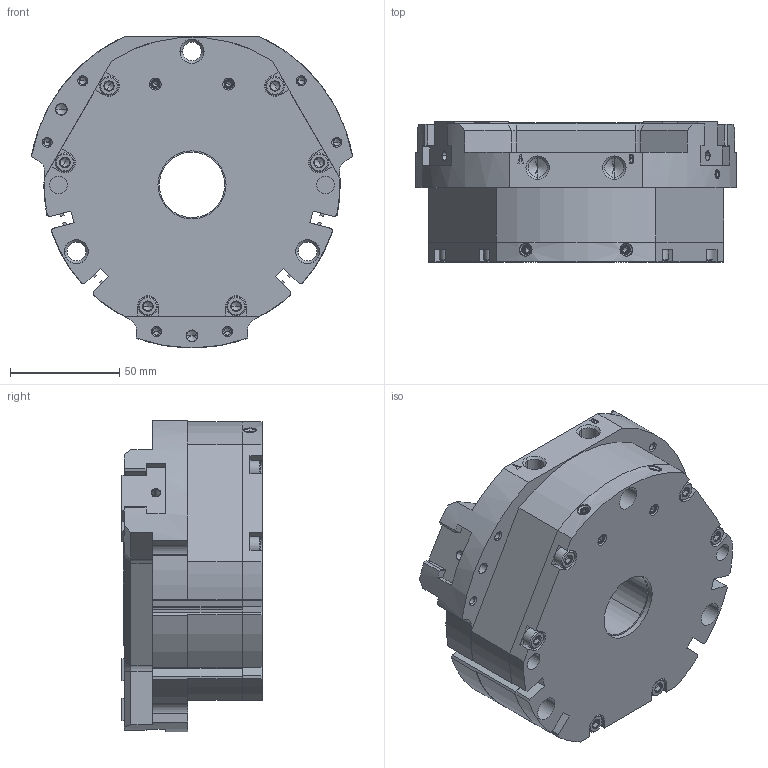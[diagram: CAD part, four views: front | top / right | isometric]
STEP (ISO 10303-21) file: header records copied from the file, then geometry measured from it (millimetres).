
FILE_DESCRIPTION (( 'STEP AP214' ), '1' );
FILE_NAME ('HP-NTB313-Assy-61G284500-20241127-HCL.STEP', '2024-11-27T05:22:45', ( '' ), ( '' ), 'SwSTEP 2.0', 'SolidWorks 2022', '' );
FILE_SCHEMA (( 'AUTOMOTIVE_DESIGN' ));
Length unit declared in the file: millimetre
Products named in the file (10): BODY^HP-NTB313; HP-NTB313-Assy-61G284500-20241127-HCL; PIPE^HP-NTB313; S-TOME2^HP-NTB313; COVER^HP-NTB313; BOLT^HP-NTB313; MASTER JAW^HP-NTB313; S-SARA^HP-NTB313; S-TOME1^HP-NTB313; REAR PLATE^HP-NTB313
Assembly tree (21 placements, depth 2):
  HP-NTB313-Assy-61G284500-20241127-HCL
    BODY^HP-NTB313
    REAR PLATE^HP-NTB313
    MASTER JAW^HP-NTB313  x3
    PIPE^HP-NTB313
    COVER^HP-NTB313
    BOLT^HP-NTB313  x6
    S-TOME1^HP-NTB313  x4
    S-TOME2^HP-NTB313
    S-SARA^HP-NTB313  x3
Bounding box: 146.74 x 64 x 142.5 mm (x, y, z)
Volume: 752149 mm3; surface area: 147622.6 mm2
Topology: 21 solids, 21 shells, 1930 faces, 5283 edges, 3415 vertices
Faces by surface type: plane 1313, cylinder 258, cone 222, bspline 123, torus 14
Entity records: 68496 total; most frequent: CARTESIAN_POINT 15714, ORIENTED_EDGE 8946, DIRECTION 7613, EDGE_CURVE 4473, LINE 3683, VECTOR 3683, VERTEX_POINT 2948, AXIS2_PLACEMENT_3D 1965
